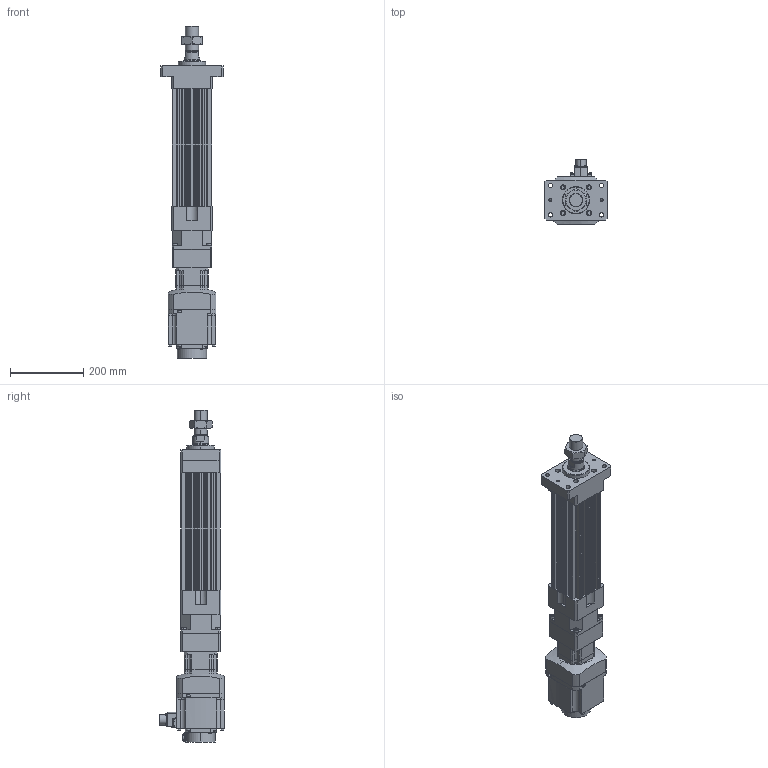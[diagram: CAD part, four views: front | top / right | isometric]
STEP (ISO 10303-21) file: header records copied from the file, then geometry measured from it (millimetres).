
FILE_DESCRIPTION (( 'STEP AP203' ), '1' );
FILE_NAME ('HES110NS(HS)-S150-W010G00-M-FM.STEP', '2023-01-27T07:08:14', ( 'tms' ), ( '' ), 'SwSTEP 2.0', 'SolidWorks 2013', '' );
FILE_SCHEMA (( 'CONFIG_CONTROL_DESIGN' ));
Length unit declared in the file: millimetre
Products named in the file (8): M36X1.5P; P0401301004; AB0901; HES110 ROD M ST150; AB090-003[HG-SR102B]; HES110NS(HS)-S150-W010G00-M-FM; HG-SR102; HES110-S150-G090-FM
Assembly tree (7 placements, depth 3):
  HES110NS(HS)-S150-W010G00-M-FM
    HES110-S150-G090-FM
    HES110 ROD M ST150
    M36X1.5P
    AB090-003[HG-SR102B]
      AB0901
      P0401301004
    HG-SR102
Bounding box: 170 x 177.49 x 908.5 mm (x, y, z)
Volume: 6058905.2 mm3; surface area: 770713 mm2
Topology: 4 solids, 15 shells, 1165 faces, 2950 edges, 1921 vertices
Faces by surface type: plane 558, cylinder 523, cone 72, bspline 8, torus 4
Entity records: 37081 total; most frequent: CARTESIAN_POINT 7224, DIRECTION 6367, ORIENTED_EDGE 5848, EDGE_CURVE 2934, AXIS2_PLACEMENT_3D 2335, VERTEX_POINT 1921, LINE 1697, VECTOR 1697
